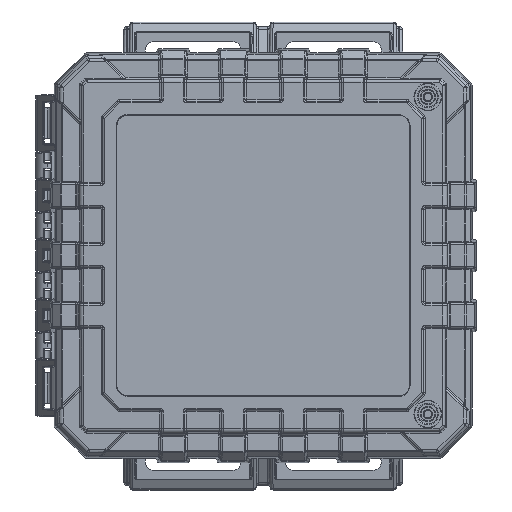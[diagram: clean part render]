
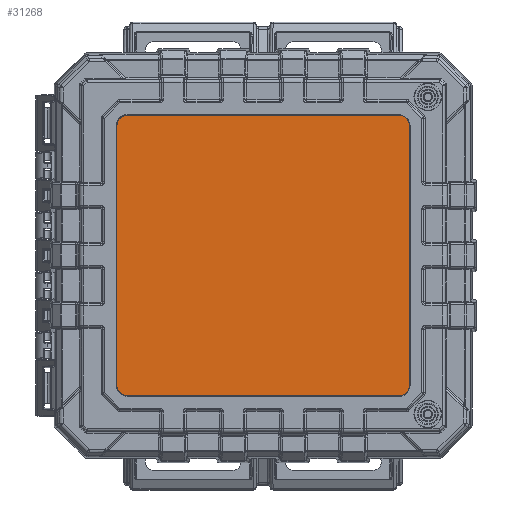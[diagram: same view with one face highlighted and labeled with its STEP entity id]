
A CAD part, top view. The second image highlights one B-rep face of the part: STEP entity #31268.
In plain terms, the highlighted planar face has unit normal (0, 0, 1).
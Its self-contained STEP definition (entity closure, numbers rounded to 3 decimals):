
#2692 = VECTOR ( 'NONE', #195080, 1000. ) ;
#3908 = DIRECTION ( 'NONE',  ( 1., 0., 0. ) ) ;
#6442 = PLANE ( 'NONE',  #38500 ) ;
#7494 = EDGE_CURVE ( 'NONE', #139245, #166820, #225676, .T. ) ;
#7738 = CARTESIAN_POINT ( 'NONE',  ( 62.551, 58.151, 121.25 ) ) ;
#8671 = CARTESIAN_POINT ( 'NONE',  ( 62.551, 0., 121.25 ) ) ;
#11566 = ORIENTED_EDGE ( 'NONE', *, *, #143860, .T. ) ;
#13940 = CARTESIAN_POINT ( 'NONE',  ( 60.771, 59.931, 121.25 ) ) ;
#16136 = LINE ( 'NONE', #55518, #2692 ) ;
#22663 = CARTESIAN_POINT ( 'NONE',  ( 62.551, -55.633, 121.25 ) ) ;
#25652 = LINE ( 'NONE', #124835, #185654 ) ;
#27457 =( BOUNDED_CURVE ( )  B_SPLINE_CURVE ( 3, ( #103500, #43706, #121255, #180873 ),
 .UNSPECIFIED., .F., .T. ) 
 B_SPLINE_CURVE_WITH_KNOTS ( ( 4, 4 ),
 ( 2.357, 3.927 ),
 .UNSPECIFIED. ) 
 CURVE ( )  GEOMETRIC_REPRESENTATION_ITEM ( )  RATIONAL_B_SPLINE_CURVE ( ( 1., 0.805, 0.805, 1. ) ) 
 REPRESENTATION_ITEM ( '' )  );
#28087 = VERTEX_POINT ( 'NONE', #133977 ) ;
#29467 = CARTESIAN_POINT ( 'NONE',  ( 58.253, -59.931, 121.25 ) ) ;
#31268 = ADVANCED_FACE ( 'NONE', ( #179195 ), #6442, .T. ) ;
#31773 = VECTOR ( 'NONE', #51800, 1000. ) ;
#33014 = CARTESIAN_POINT ( 'NONE',  ( 58.253, 59.931, 121.25 ) ) ;
#38500 = AXIS2_PLACEMENT_3D ( 'NONE', #198198, #105603, #3908 ) ;
#43510 = CARTESIAN_POINT ( 'NONE',  ( -62.551, -55.633, 121.25 ) ) ;
#43706 = CARTESIAN_POINT ( 'NONE',  ( -62.551, -58.151, 121.25 ) ) ;
#50229 =( BOUNDED_CURVE ( )  B_SPLINE_CURVE ( 3, ( #196668, #60864, #194185, #22663 ),
 .UNSPECIFIED., .F., .T. ) 
 B_SPLINE_CURVE_WITH_KNOTS ( ( 4, 4 ),
 ( 2.357, 3.927 ),
 .UNSPECIFIED. ) 
 CURVE ( )  GEOMETRIC_REPRESENTATION_ITEM ( )  RATIONAL_B_SPLINE_CURVE ( ( 1., 0.805, 0.805, 1. ) ) 
 REPRESENTATION_ITEM ( '' )  );
#50855 = CARTESIAN_POINT ( 'NONE',  ( -62.551, 55.633, 121.25 ) ) ;
#51800 = DIRECTION ( 'NONE',  ( 0., 1., 0. ) ) ;
#54397 = EDGE_CURVE ( 'NONE', #202089, #66658, #25652, .T. ) ;
#55518 = CARTESIAN_POINT ( 'NONE',  ( 0., -59.931, 121.25 ) ) ;
#56986 = DIRECTION ( 'NONE',  ( 0., -1., 0. ) ) ;
#60864 = CARTESIAN_POINT ( 'NONE',  ( 60.771, -59.931, 121.25 ) ) ;
#62065 = ORIENTED_EDGE ( 'NONE', *, *, #178552, .T. ) ;
#66658 = VERTEX_POINT ( 'NONE', #111340 ) ;
#73762 = ORIENTED_EDGE ( 'NONE', *, *, #7494, .T. ) ;
#84309 = VERTEX_POINT ( 'NONE', #29467 ) ;
#91243 = EDGE_LOOP ( 'NONE', ( #134740, #11566, #121163, #229764, #62065, #247730, #73762, #137523 ) ) ;
#103500 = CARTESIAN_POINT ( 'NONE',  ( -62.551, -55.633, 121.25 ) ) ;
#105603 = DIRECTION ( 'NONE',  ( 0., 0., 1. ) ) ;
#111340 = CARTESIAN_POINT ( 'NONE',  ( -58.253, 59.931, 121.25 ) ) ;
#116618 = VERTEX_POINT ( 'NONE', #228002 ) ;
#117934 = CARTESIAN_POINT ( 'NONE',  ( -62.551, 0., 121.25 ) ) ;
#121163 = ORIENTED_EDGE ( 'NONE', *, *, #133410, .T. ) ;
#121255 = CARTESIAN_POINT ( 'NONE',  ( -60.771, -59.931, 121.25 ) ) ;
#123383 = CARTESIAN_POINT ( 'NONE',  ( 62.551, 55.633, 121.25 ) ) ;
#124621 = CARTESIAN_POINT ( 'NONE',  ( -62.551, 58.151, 121.25 ) ) ;
#124835 = CARTESIAN_POINT ( 'NONE',  ( 0., 59.931, 121.25 ) ) ;
#133410 = EDGE_CURVE ( 'NONE', #116618, #167248, #192823, .T. ) ;
#133977 = CARTESIAN_POINT ( 'NONE',  ( -58.253, -59.931, 121.25 ) ) ;
#134740 = ORIENTED_EDGE ( 'NONE', *, *, #54397, .T. ) ;
#137523 = ORIENTED_EDGE ( 'NONE', *, *, #138776, .T. ) ;
#138776 = EDGE_CURVE ( 'NONE', #166820, #202089, #235872, .T. ) ;
#139245 = VERTEX_POINT ( 'NONE', #234470 ) ;
#143854 = DIRECTION ( 'NONE',  ( -1., 0., 0. ) ) ;
#143860 = EDGE_CURVE ( 'NONE', #66658, #116618, #145538, .T. ) ;
#144905 = CARTESIAN_POINT ( 'NONE',  ( -58.253, 59.931, 121.25 ) ) ;
#145538 =( BOUNDED_CURVE ( )  B_SPLINE_CURVE ( 3, ( #144905, #243743, #124621, #50855 ),
 .UNSPECIFIED., .F., .F. ) 
 B_SPLINE_CURVE_WITH_KNOTS ( ( 4, 4 ),
 ( 2.357, 3.927 ),
 .UNSPECIFIED. ) 
 CURVE ( )  GEOMETRIC_REPRESENTATION_ITEM ( )  RATIONAL_B_SPLINE_CURVE ( ( 1., 0.805, 0.805, 1. ) ) 
 REPRESENTATION_ITEM ( '' )  );
#152485 = CARTESIAN_POINT ( 'NONE',  ( 58.253, 59.931, 121.25 ) ) ;
#157524 = EDGE_CURVE ( 'NONE', #167248, #28087, #27457, .T. ) ;
#163633 = VECTOR ( 'NONE', #56986, 1000. ) ;
#166820 = VERTEX_POINT ( 'NONE', #245782 ) ;
#167248 = VERTEX_POINT ( 'NONE', #43510 ) ;
#178552 = EDGE_CURVE ( 'NONE', #28087, #84309, #16136, .T. ) ;
#179091 = EDGE_CURVE ( 'NONE', #84309, #139245, #50229, .T. ) ;
#179195 = FACE_OUTER_BOUND ( 'NONE', #91243, .T. ) ;
#180873 = CARTESIAN_POINT ( 'NONE',  ( -58.253, -59.931, 121.25 ) ) ;
#185654 = VECTOR ( 'NONE', #143854, 1000. ) ;
#192823 = LINE ( 'NONE', #117934, #163633 ) ;
#194185 = CARTESIAN_POINT ( 'NONE',  ( 62.551, -58.151, 121.25 ) ) ;
#195080 = DIRECTION ( 'NONE',  ( 1., 0., 0. ) ) ;
#196668 = CARTESIAN_POINT ( 'NONE',  ( 58.253, -59.931, 121.25 ) ) ;
#198198 = CARTESIAN_POINT ( 'NONE',  ( 0., 0., 121.25 ) ) ;
#202089 = VERTEX_POINT ( 'NONE', #152485 ) ;
#225676 = LINE ( 'NONE', #8671, #31773 ) ;
#228002 = CARTESIAN_POINT ( 'NONE',  ( -62.551, 55.633, 121.25 ) ) ;
#229764 = ORIENTED_EDGE ( 'NONE', *, *, #157524, .T. ) ;
#234470 = CARTESIAN_POINT ( 'NONE',  ( 62.551, -55.633, 121.25 ) ) ;
#235872 =( BOUNDED_CURVE ( )  B_SPLINE_CURVE ( 3, ( #123383, #7738, #13940, #33014 ),
 .UNSPECIFIED., .F., .T. ) 
 B_SPLINE_CURVE_WITH_KNOTS ( ( 4, 4 ),
 ( 2.357, 3.927 ),
 .UNSPECIFIED. ) 
 CURVE ( )  GEOMETRIC_REPRESENTATION_ITEM ( )  RATIONAL_B_SPLINE_CURVE ( ( 1., 0.805, 0.805, 1. ) ) 
 REPRESENTATION_ITEM ( '' )  );
#243743 = CARTESIAN_POINT ( 'NONE',  ( -60.771, 59.931, 121.25 ) ) ;
#245782 = CARTESIAN_POINT ( 'NONE',  ( 62.551, 55.633, 121.25 ) ) ;
#247730 = ORIENTED_EDGE ( 'NONE', *, *, #179091, .T. ) ;
